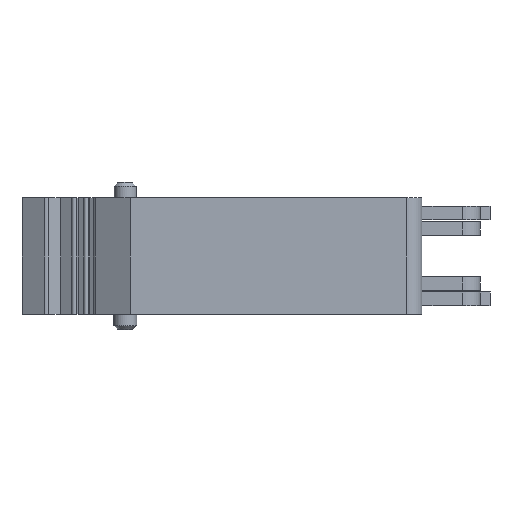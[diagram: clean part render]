
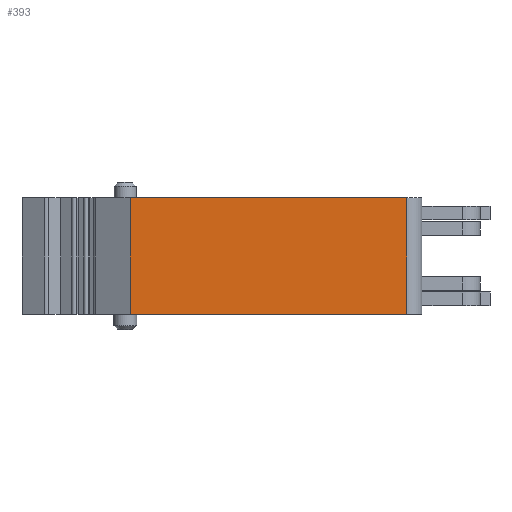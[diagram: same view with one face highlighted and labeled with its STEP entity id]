
A CAD part, left-side view. The second image highlights one B-rep face of the part: STEP entity #393.
In plain terms, the highlighted planar face has unit normal (-1, 0, 0).
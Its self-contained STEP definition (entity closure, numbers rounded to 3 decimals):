
#393=ADVANCED_FACE('',(#786),#590,.F.);
#590=PLANE('',#4462);
#786=FACE_OUTER_BOUND('',#993,.T.);
#993=EDGE_LOOP('',(#1624,#1625,#1626,#1627));
#1624=ORIENTED_EDGE('',*,*,#3082,.F.);
#1625=ORIENTED_EDGE('',*,*,#3081,.T.);
#1626=ORIENTED_EDGE('',*,*,#3083,.T.);
#1627=ORIENTED_EDGE('',*,*,#3084,.F.);
#2561=VERTEX_POINT('',#6492);
#2563=VERTEX_POINT('',#6496);
#2564=VERTEX_POINT('',#6500);
#2565=VERTEX_POINT('',#6502);
#3081=EDGE_CURVE('',#2561,#2563,#3631,.T.);
#3082=EDGE_CURVE('',#2561,#2564,#3632,.T.);
#3083=EDGE_CURVE('',#2563,#2565,#3633,.T.);
#3084=EDGE_CURVE('',#2564,#2565,#3634,.T.);
#3631=LINE('',#6497,#4143);
#3632=LINE('',#6499,#4144);
#3633=LINE('',#6501,#4145);
#3634=LINE('',#6503,#4146);
#4143=VECTOR('',#5288,1.);
#4144=VECTOR('',#5291,1.);
#4145=VECTOR('',#5292,1.);
#4146=VECTOR('',#5293,1.);
#4462=AXIS2_PLACEMENT_3D('',#6504,#5294,#5295);
#5288=DIRECTION('',(0.,0.,1.));
#5291=DIRECTION('',(0.,1.,0.));
#5292=DIRECTION('',(0.,1.,0.));
#5293=DIRECTION('',(0.,0.,1.));
#5294=DIRECTION('',(1.,0.,0.));
#5295=DIRECTION('',(0.,0.,-1.));
#6492=CARTESIAN_POINT('',(6296.212,2057.843,-15.2));
#6496=CARTESIAN_POINT('',(6296.212,2057.843,0.));
#6497=CARTESIAN_POINT('',(6296.212,2057.843,-135.));
#6499=CARTESIAN_POINT('',(6296.212,2057.843,-15.2));
#6500=CARTESIAN_POINT('',(6296.212,2093.926,-15.2));
#6501=CARTESIAN_POINT('',(6296.212,2057.843,0.));
#6502=CARTESIAN_POINT('',(6296.212,2093.926,0.));
#6503=CARTESIAN_POINT('',(6296.212,2093.926,-135.));
#6504=CARTESIAN_POINT('',(6296.212,2057.843,-135.));
